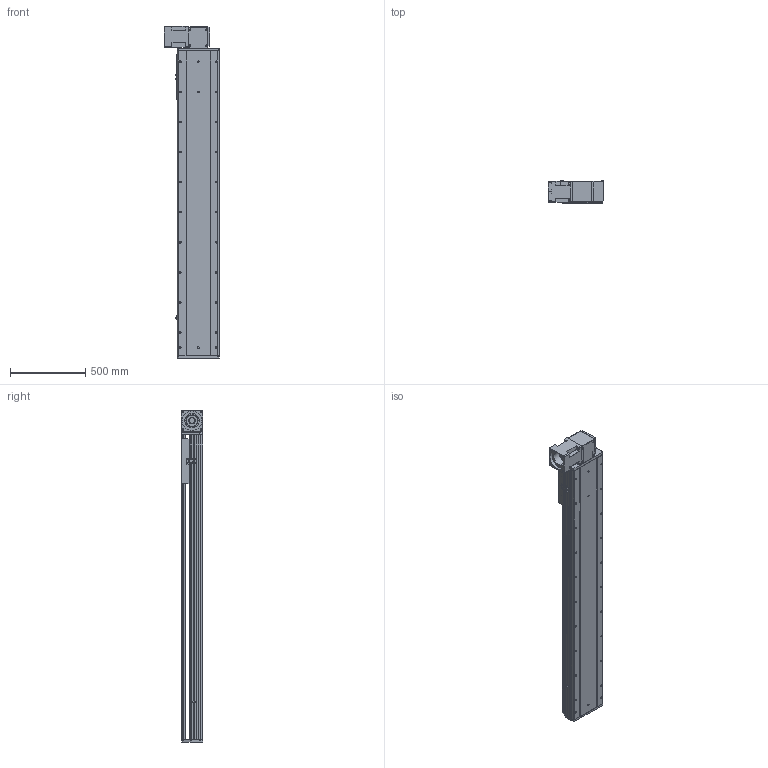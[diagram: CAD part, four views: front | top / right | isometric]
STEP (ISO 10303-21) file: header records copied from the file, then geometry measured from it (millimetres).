
FILE_DESCRIPTION (( 'STEP AP214' ), '1' );
FILE_NAME ('RTB28R-XX-1600-BR-M100-XX-C4.STEP', '2025-12-22T01:14:14', ( '' ), ( '' ), 'SwSTEP 2.0', 'SolidWorks 2018', '' );
FILE_SCHEMA (( 'AUTOMOTIVE_DESIGN' ));
Length unit declared in the file: millimetre
Products named in the file (4): RTB28S-GY-011^RTB28R-XX-XX-BR-M100-XX-C4; RTB28S-GY-004^RTB28R-XX-XX-BR-M100-XX-C4; RTB28S-GY-008^RTB28R-XX-XX-BR-M100-XX-C4; RTB28R-XX-1600-BR-M100-XX-C4
Assembly tree (3 placements, depth 2):
  RTB28R-XX-1600-BR-M100-XX-C4
    RTB28S-GY-011^RTB28R-XX-XX-BR-M100-XX-C4
    RTB28S-GY-004^RTB28R-XX-XX-BR-M100-XX-C4
    RTB28S-GY-008^RTB28R-XX-XX-BR-M100-XX-C4
Bounding box: 370 x 145 x 2207 mm (x, y, z)
Volume: 39060409.1 mm3; surface area: 3714681.3 mm2
Topology: 3 solids, 4 shells, 1018 faces, 2700 edges, 1736 vertices
Faces by surface type: plane 462, cylinder 385, bspline 87, cone 80, torus 4
Entity records: 43660 total; most frequent: CARTESIAN_POINT 11695, ORIENTED_EDGE 5336, DIRECTION 5196, EDGE_CURVE 2668, AXIS2_PLACEMENT_3D 1797, VERTEX_POINT 1736, LINE 1602, VECTOR 1602
